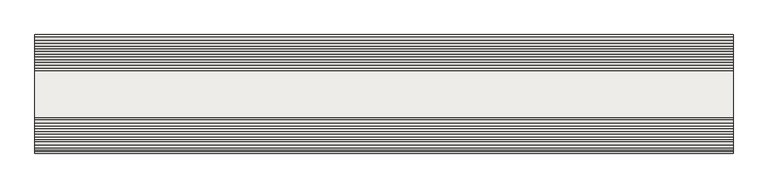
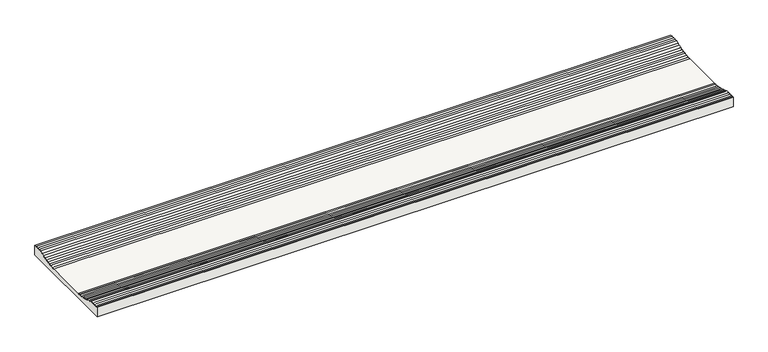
"""IFC4 building model written with IfcOpenShell, lengths in millimetres: slab geometry, ROSA GRES_204 : Pieza 204_Indugres_Indubeige_Tecno."""

from ifc_helpers import new_model, si_unit, point, frame, frame_2d, origin, place, context, project, spatial, polyline, circle_curve, trimmed, segment, composite_curve, outline, extrude, source, transform, mapped, element, save


def slab_de1c2f08(model_context):
    return source(origin(), model_context, "Body", "SweptSolid", [
        extrude(outline(composite_curve([segment(polyline([(0.0, 0.0), (0.0, 22.8672484), (3.4834385, 22.8672484)]), True, "CONTINUOUS"), segment(trimmed(circle_curve(frame_2d((3.4834385, 24.9459193)), 2.078671), [point((3.4834385, 22.8672484))], [point((5.3933441, 24.1254722))], True, "CARTESIAN"), True, "CONTINUOUS"), segment(trimmed(circle_curve(frame_2d((8.4772441, 27.2443435)), 4.3860914), [point((5.3933441, 24.1254722))], [point((11.4768535, 24.0443215))], True, "CARTESIAN"), True, "CONTINUOUS"), segment(trimmed(circle_curve(frame_2d((14.4834385, 27.2619892)), 4.4037415), [point((11.4768535, 24.0443215))], [point((17.4838192, 24.0385354))], True, "CARTESIAN"), True, "CONTINUOUS"), segment(trimmed(circle_curve(frame_2d((20.4772441, 27.2443435)), 4.3860914), [point((17.4838192, 24.0385354))], [point((23.5481555, 24.1126825))], True, "CARTESIAN"), True, "CONTINUOUS"), segment(trimmed(circle_curve(frame_2d((27.5873515, 25.8222711)), 4.3860914), [point((23.5481555, 24.1126825))], [point((29.0929084, 21.702672))], True, "CARTESIAN"), True, "CONTINUOUS"), segment(trimmed(circle_curve(frame_2d((32.9910112, 23.7132919)), 4.3860914), [point((29.0929084, 21.702672))], [point((34.6740913, 19.6629784))], True, "CARTESIAN"), True, "CONTINUOUS"), segment(trimmed(circle_curve(frame_2d((38.5344705, 21.7451095)), 4.3860914), [point((34.6740913, 19.6629784))], [point((40.406127, 17.7784107))], True, "CARTESIAN"), True, "CONTINUOUS"), segment(trimmed(circle_curve(frame_2d((44.1065968, 20.1330489)), 4.3860914), [point((40.406127, 17.7784107))], [point((46.146977, 16.2504407))], True, "CARTESIAN"), True, "CONTINUOUS"), segment(trimmed(circle_curve(frame_2d((49.7914497, 18.690854)), 4.3860914), [point((46.146977, 16.2504407))], [point((52.0386105, 14.9241491))], True, "CARTESIAN"), True, "CONTINUOUS"), segment(trimmed(circle_curve(frame_2d((55.5496933, 17.5528551)), 4.3860914), [point((52.0386105, 14.9241491))], [point((57.8759715, 13.8344915))], True, "CARTESIAN"), True, "CONTINUOUS"), segment(trimmed(circle_curve(frame_2d((61.3099097, 16.563203)), 4.3860914), [point((57.8759715, 13.8344915))], [point((63.8574067, 12.9927609))], True, "CARTESIAN"), True, "CONTINUOUS"), segment(trimmed(circle_curve(frame_2d((67.1546539, 15.8851576)), 4.3860914), [point((63.8574067, 12.9927609))], [point((69.7580788, 12.3552884))], True, "CARTESIAN"), True, "CONTINUOUS"), segment(trimmed(circle_curve(frame_2d((72.9411902, 15.372837)), 4.3860914), [point((69.7580788, 12.3552884))], [point((75.6586011, 11.9299493))], True, "CARTESIAN"), True, "CONTINUOUS"), segment(polyline([(75.6586011, 11.9299493), (174.3413989, 11.9299493)]), True, "CONTINUOUS"), segment(trimmed(circle_curve(frame_2d((177.0588098, 15.372837)), 4.3860914), [point((174.3413989, 11.9299493))], [point((180.2419212, 12.3552884))], True, "CARTESIAN"), True, "CONTINUOUS"), segment(trimmed(circle_curve(frame_2d((182.8453461, 15.8851576)), 4.3860914), [point((180.2419212, 12.3552884))], [point((186.1425933, 12.9927609))], True, "CARTESIAN"), True, "CONTINUOUS"), segment(trimmed(circle_curve(frame_2d((188.6900903, 16.563203)), 4.3860914), [point((186.1425933, 12.9927609))], [point((192.1240285, 13.8344915))], True, "CARTESIAN"), True, "CONTINUOUS"), segment(trimmed(circle_curve(frame_2d((194.4503067, 17.5528551)), 4.3860914), [point((192.1240285, 13.8344915))], [point((197.9613895, 14.9241491))], True, "CARTESIAN"), True, "CONTINUOUS"), segment(trimmed(circle_curve(frame_2d((200.2085503, 18.690854)), 4.3860914), [point((197.9613895, 14.9241491))], [point((203.853023, 16.2504407))], True, "CARTESIAN"), True, "CONTINUOUS"), segment(trimmed(circle_curve(frame_2d((205.8934032, 20.1330489)), 4.3860914), [point((203.853023, 16.2504407))], [point((209.593873, 17.7784107))], True, "CARTESIAN"), True, "CONTINUOUS"), segment(trimmed(circle_curve(frame_2d((211.4655295, 21.7451095)), 4.3860914), [point((209.593873, 17.7784107))], [point((215.3259087, 19.6629784))], True, "CARTESIAN"), True, "CONTINUOUS"), segment(trimmed(circle_curve(frame_2d((217.0089888, 23.7132919)), 4.3860914), [point((215.3259087, 19.6629784))], [point((220.9070916, 21.702672))], True, "CARTESIAN"), True, "CONTINUOUS"), segment(trimmed(circle_curve(frame_2d((222.4126485, 25.8222711)), 4.3860914), [point((220.9070916, 21.702672))], [point((226.4518445, 24.1126825))], True, "CARTESIAN"), True, "CONTINUOUS"), segment(trimmed(circle_curve(frame_2d((229.5227559, 27.2443435)), 4.3860914), [point((226.4518445, 24.1126825))], [point((232.5161808, 24.0385354))], True, "CARTESIAN"), True, "CONTINUOUS"), segment(trimmed(circle_curve(frame_2d((235.5165615, 27.2619892)), 4.4037415), [point((232.5161808, 24.0385354))], [point((238.5231465, 24.0443215))], True, "CARTESIAN"), True, "CONTINUOUS"), segment(trimmed(circle_curve(frame_2d((241.5227559, 27.2443435)), 4.3860914), [point((238.5231465, 24.0443215))], [point((244.6066559, 24.1254722))], True, "CARTESIAN"), True, "CONTINUOUS"), segment(trimmed(circle_curve(frame_2d((246.5165615, 24.9459193)), 2.078671), [point((244.6066559, 24.1254722))], [point((246.5165615, 22.8672484))], True, "CARTESIAN"), True, "CONTINUOUS"), segment(polyline([(246.5165615, 22.8672484), (250.0, 22.8672484), (250.0, 0.0), (0.0, 0.0)]), True, "CONTINUOUS")], self_intersect=False)), frame((0.0, 0.0, 0.0), z_axis=(1.0, 0.0, 0.0), x_axis=(0.0, 1.0, 0.0)), (0.0, 0.0, 1.0), 1471.8252596),
    ])


if __name__ == "__main__":
    model = new_model("IFC4")
    model_context = context("Model", 3, world=origin())
    ifc_project = project(units=[si_unit("LENGTHUNIT", "METRE", prefix="MILLI")], contexts=[model_context])
    site = spatial("IfcSite", under=ifc_project)
    building = spatial("IfcBuilding", under=site)
    placement = place(None, origin())
    slab_shape = slab_de1c2f08(model_context)
    element("IfcSlab", 1, ObjectType="ROSA GRES_204 : Pieza 204_Indugres_Indubeige_Tecno", at=placement, inside=building, context=model_context, shape_type="MappedRepresentation", body=[
        mapped(slab_shape, transform((0.0, 0.0, 0.0), x_axis=(1.0, 0.0, 0.0), y_axis=(0.0, 1.0, 0.0), z_axis=(0.0, 0.0, 1.0))),
    ])
    save(model, "model.ifc")
